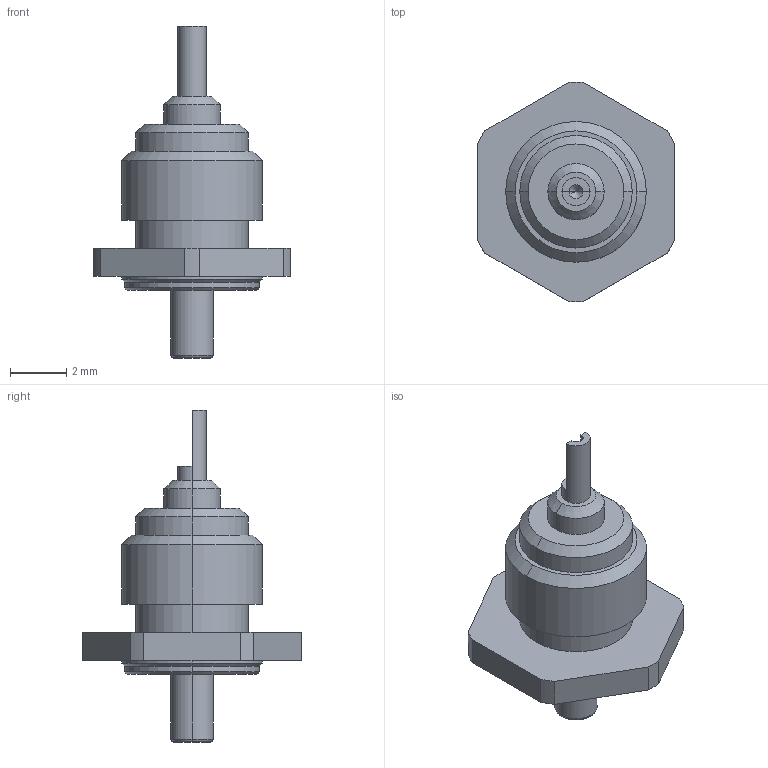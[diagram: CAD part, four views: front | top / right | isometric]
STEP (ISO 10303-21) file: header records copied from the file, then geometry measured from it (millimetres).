
FILE_DESCRIPTION (( 'STEP AP203' ), '1' );
FILE_NAME ('90449-003 MHF 4 ACCESSORIES.STEP', '2020-06-09T06:33:39', ( '' ), ( '' ), 'SwSTEP 2.0', 'SolidWorks 2017', '' );
FILE_SCHEMA (( 'CONFIG_CONTROL_DESIGN' ));
Length unit declared in the file: millimetre
Products named in the file (1): 90449-003 MHF 4 ACCESSORIES
Bounding box: 7 x 7.8 x 11.8 mm (x, y, z)
Volume: 130.4 mm3; surface area: 210.5 mm2
Topology: 1 solids, 1 shells, 64 faces, 140 edges, 85 vertices
Faces by surface type: cylinder 26, plane 20, cone 16, torus 2
Entity records: 1821 total; most frequent: DIRECTION 338, CARTESIAN_POINT 288, ORIENTED_EDGE 276, EDGE_CURVE 138, AXIS2_PLACEMENT_3D 135, VERTEX_POINT 85, EDGE_LOOP 73, CIRCLE 70
